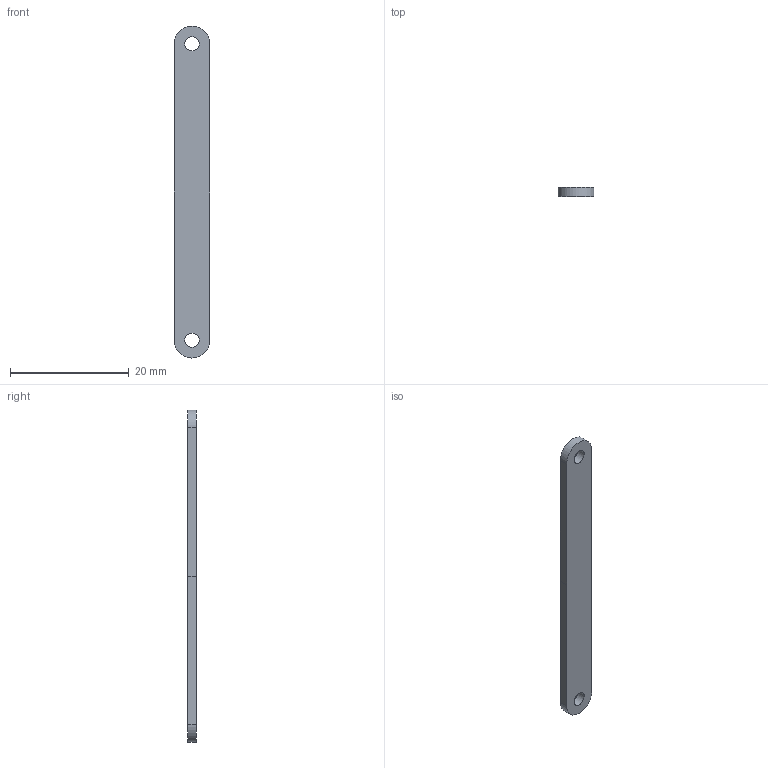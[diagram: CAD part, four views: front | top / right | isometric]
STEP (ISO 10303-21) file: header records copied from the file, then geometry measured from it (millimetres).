
FILE_DESCRIPTION(/* description */ (''),/* implementation_level */ '2;1');
FILE_NAME(/* name */ 'C:/Users/priba/Documents/Temp/lever50.step',/* time_stamp */ '2020-04-27T09:12:48+02:00',/* author */ (''),/* organization */ (''),/* preprocessor_version */ 'ST-DEVELOPER v18.1',/* originating_system */ 'Autodesk Translation Framework v9.2.0.1227',/* authorisation */ '');
FILE_SCHEMA (('AUTOMOTIVE_DESIGN { 1 0 10303 214 3 1 1 }'));
Length unit declared in the file: millimetre
Products named in the file (1): lever50
Bounding box: 6 x 1.5 x 56 mm (x, y, z)
Volume: 478 mm3; surface area: 838.3 mm2
Topology: 1 solids, 1 shells, 9 faces, 21 edges, 14 vertices
Faces by surface type: plane 5, cylinder 4
Full cylindrical faces by diameter (mm): 2.4 x2
Entity records: 304 total; most frequent: DIRECTION 49, CARTESIAN_POINT 45, ORIENTED_EDGE 42, EDGE_CURVE 21, AXIS2_PLACEMENT_3D 18, VERTEX_POINT 14, EDGE_LOOP 13, LINE 13
